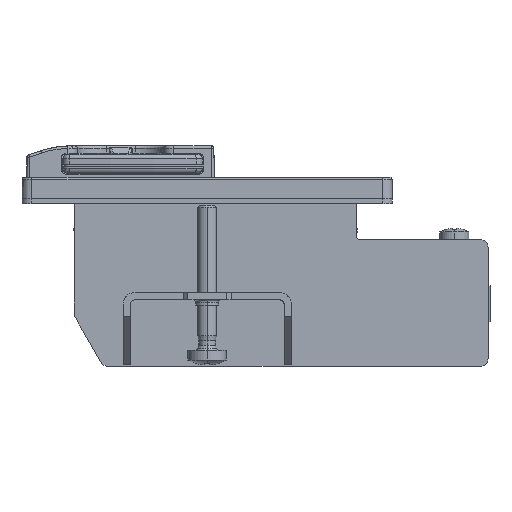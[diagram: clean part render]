
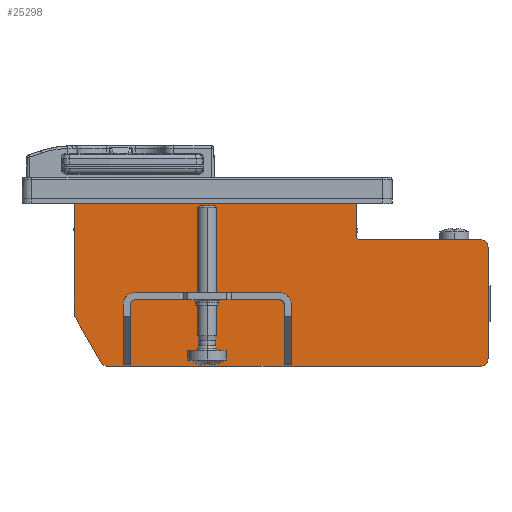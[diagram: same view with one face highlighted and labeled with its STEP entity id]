
A CAD part, left-side view. The second image highlights one B-rep face of the part: STEP entity #25298.
In plain terms, the highlighted planar face has unit normal (-1, 0, 0).
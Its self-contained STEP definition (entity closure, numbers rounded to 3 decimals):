
#6168=DIRECTION('',(0.,0.,1.));
#6169=VECTOR('',#6168,6.7);
#6170=CARTESIAN_POINT('',(-42.8,-16.,-14.2));
#6171=LINE('',#6170,#6169);
#6210=DIRECTION('',(0.,-1.,0.));
#6211=VECTOR('',#6210,0.024);
#6212=CARTESIAN_POINT('',(-42.8,41.8,-7.5));
#6213=LINE('',#6212,#6211);
#6217=DIRECTION('',(0.,0.,-1.));
#6218=VECTOR('',#6217,0.3);
#6219=CARTESIAN_POINT('',(-42.8,41.776,-7.2));
#6220=LINE('',#6219,#6218);
#6224=DIRECTION('',(0.,-1.,0.));
#6225=VECTOR('',#6224,56.876);
#6226=CARTESIAN_POINT('',(-42.8,41.776,-7.2));
#6227=LINE('',#6226,#6225);
#6231=DIRECTION('',(0.,0.707,0.707));
#6232=VECTOR('',#6231,0.424);
#6233=CARTESIAN_POINT('',(-42.8,-15.4,-7.5));
#6234=LINE('',#6233,#6232);
#6238=DIRECTION('',(0.,-1.,0.));
#6239=VECTOR('',#6238,0.6);
#6240=CARTESIAN_POINT('',(-42.8,-15.4,-7.5));
#6241=LINE('',#6240,#6239);
#6245=CARTESIAN_POINT('',(-42.8,-41.8,-16.6));
#6246=DIRECTION('',(1.,0.,0.));
#6247=DIRECTION('',(0.,0.,1.));
#6248=AXIS2_PLACEMENT_3D('',#6245,#6246,#6247);
#6253=CARTESIAN_POINT('',(-42.8,-41.8,-39.7));
#6254=DIRECTION('',(1.,0.,0.));
#6255=DIRECTION('',(0.,-1.,0.));
#6256=AXIS2_PLACEMENT_3D('',#6253,#6254,#6255);
#6261=DIRECTION('',(0.,1.,0.));
#6262=VECTOR('',#6261,77.476);
#6263=CARTESIAN_POINT('',(-42.8,-41.8,-41.3));
#6264=LINE('',#6263,#6262);
#6268=CARTESIAN_POINT('',(-42.8,35.676,-39.7));
#6269=DIRECTION('',(1.,0.,0.));
#6270=DIRECTION('',(0.,0.,-1.));
#6271=AXIS2_PLACEMENT_3D('',#6268,#6269,#6270);
#6276=DIRECTION('',(0.,-1.,0.));
#6277=VECTOR('',#6276,30.);
#6278=CARTESIAN_POINT('',(-42.8,30.,-27.5));
#6279=LINE('',#6278,#6277);
#6283=CARTESIAN_POINT('',(-42.8,0.,-28.5));
#6284=DIRECTION('',(1.,0.,0.));
#6285=DIRECTION('',(0.,0.,1.));
#6286=AXIS2_PLACEMENT_3D('',#6283,#6284,#6285);
#6291=DIRECTION('',(0.,0.,-1.));
#6292=VECTOR('',#6291,12.5);
#6293=CARTESIAN_POINT('',(-42.8,-1.,-28.5));
#6294=LINE('',#6293,#6292);
#6298=DIRECTION('',(0.,0.,1.));
#6299=VECTOR('',#6298,12.5);
#6300=CARTESIAN_POINT('',(-42.8,-2.5,-41.));
#6301=LINE('',#6300,#6299);
#6305=CARTESIAN_POINT('',(-42.8,0.,-28.5));
#6306=DIRECTION('',(-1.,0.,0.));
#6307=DIRECTION('',(0.,-1.,0.));
#6308=AXIS2_PLACEMENT_3D('',#6305,#6306,#6307);
#6313=DIRECTION('',(0.,1.,0.));
#6314=VECTOR('',#6313,30.);
#6315=CARTESIAN_POINT('',(-42.8,0.,-26.));
#6316=LINE('',#6315,#6314);
#6320=DIRECTION('',(0.,0.,-1.));
#6321=VECTOR('',#6320,12.5);
#6322=CARTESIAN_POINT('',(-42.8,32.5,-28.5));
#6323=LINE('',#6322,#6321);
#6327=DIRECTION('',(0.,0.,1.));
#6328=VECTOR('',#6327,12.5);
#6329=CARTESIAN_POINT('',(-42.8,31.,-41.));
#6330=LINE('',#6329,#6328);
#6334=DIRECTION('',(0.,-0.5,-0.866));
#6335=VECTOR('',#6334,10.648);
#6336=CARTESIAN_POINT('',(-42.8,42.386,-31.279));
#6337=LINE('',#6336,#6335);
#6404=DIRECTION('',(0.,0.,1.));
#6405=VECTOR('',#6404,23.1);
#6406=CARTESIAN_POINT('',(-42.8,-43.4,-39.7));
#6407=LINE('',#6406,#6405);
#6467=DIRECTION('',(0.,1.,0.));
#6468=VECTOR('',#6467,25.);
#6469=CARTESIAN_POINT('',(-42.8,-41.8,-15.));
#6470=LINE('',#6469,#6468);
#6520=CARTESIAN_POINT('',(-42.8,-16.8,-14.2));
#6521=DIRECTION('',(-1.,0.,0.));
#6522=DIRECTION('',(0.,1.,0.));
#6523=AXIS2_PLACEMENT_3D('',#6520,#6521,#6522);
#6688=DIRECTION('',(0.,0.,-1.));
#6689=VECTOR('',#6688,23.071);
#6690=CARTESIAN_POINT('',(-42.8,42.6,-7.408));
#6691=LINE('',#6690,#6689);
#6709=CARTESIAN_POINT('',(-42.8,41.,-30.479));
#6710=DIRECTION('',(-1.,0.,0.));
#6711=DIRECTION('',(0.,1.,0.));
#6712=AXIS2_PLACEMENT_3D('',#6709,#6710,#6711);
#6784=DIRECTION('',(0.,1.,0.));
#6785=VECTOR('',#6784,0.8);
#6786=CARTESIAN_POINT('',(-42.8,41.8,-7.408));
#6787=LINE('',#6786,#6785);
#8610=DIRECTION('',(0.,0.,1.));
#8611=VECTOR('',#8610,0.092);
#8612=CARTESIAN_POINT('',(-42.8,41.8,-7.5));
#8613=LINE('',#8612,#8611);
#10755=CARTESIAN_POINT('',(-42.8,30.,-28.5));
#10756=DIRECTION('',(-1.,0.,0.));
#10757=DIRECTION('',(0.,0.,1.));
#10758=AXIS2_PLACEMENT_3D('',#10755,#10756,#10757);
#10798=DIRECTION('',(0.,-1.,0.));
#10799=VECTOR('',#10798,1.5);
#10800=CARTESIAN_POINT('',(-42.8,32.5,-41.));
#10801=LINE('',#10800,#10799);
#10819=CARTESIAN_POINT('',(-42.8,30.,-28.5));
#10820=DIRECTION('',(1.,0.,0.));
#10821=DIRECTION('',(0.,1.,0.));
#10822=AXIS2_PLACEMENT_3D('',#10819,#10820,#10821);
#10920=DIRECTION('',(0.,-1.,0.));
#10921=VECTOR('',#10920,1.5);
#10922=CARTESIAN_POINT('',(-42.8,-1.,-41.));
#10923=LINE('',#10922,#10921);
#19327=CARTESIAN_POINT('',(-42.8,42.6,-30.479));
#19329=VERTEX_POINT('',#19327);
#19331=CARTESIAN_POINT('',(-42.8,42.386,-31.279));
#19332=VERTEX_POINT('',#19331);
#19343=CARTESIAN_POINT('',(-42.8,41.8,-7.408));
#19344=CARTESIAN_POINT('',(-42.8,42.6,-7.408));
#19345=VERTEX_POINT('',#19343);
#19346=VERTEX_POINT('',#19344);
#19365=CARTESIAN_POINT('',(-42.8,-16.,-14.2));
#19366=CARTESIAN_POINT('',(-42.8,-16.8,-15.));
#19367=VERTEX_POINT('',#19365);
#19368=VERTEX_POINT('',#19366);
#19611=CARTESIAN_POINT('',(-42.8,-2.5,-28.5));
#19612=CARTESIAN_POINT('',(-42.8,0.,-26.));
#19613=VERTEX_POINT('',#19611);
#19614=VERTEX_POINT('',#19612);
#19615=CARTESIAN_POINT('',(-42.8,0.,-27.5));
#19616=CARTESIAN_POINT('',(-42.8,-1.,-28.5));
#19617=VERTEX_POINT('',#19615);
#19618=VERTEX_POINT('',#19616);
#19709=CARTESIAN_POINT('',(-42.8,-41.8,-41.3));
#19710=CARTESIAN_POINT('',(-42.8,35.676,-41.3));
#19711=VERTEX_POINT('',#19709);
#19712=VERTEX_POINT('',#19710);
#19713=CARTESIAN_POINT('',(-42.8,37.062,-40.5));
#19714=VERTEX_POINT('',#19713);
#20277=CARTESIAN_POINT('',(-42.8,41.8,-7.5));
#20279=VERTEX_POINT('',#20277);
#20297=CARTESIAN_POINT('',(-42.8,41.776,-7.2));
#20298=CARTESIAN_POINT('',(-42.8,-15.1,-7.2));
#20299=VERTEX_POINT('',#20297);
#20300=VERTEX_POINT('',#20298);
#20327=CARTESIAN_POINT('',(-42.8,41.776,-7.5));
#20328=VERTEX_POINT('',#20327);
#20331=CARTESIAN_POINT('',(-42.8,-15.4,-7.5));
#20332=VERTEX_POINT('',#20331);
#20333=CARTESIAN_POINT('',(-42.8,-41.8,-15.));
#20335=VERTEX_POINT('',#20333);
#20357=CARTESIAN_POINT('',(-42.8,30.,-27.5));
#20358=CARTESIAN_POINT('',(-42.8,31.,-28.5));
#20359=VERTEX_POINT('',#20357);
#20360=VERTEX_POINT('',#20358);
#20361=CARTESIAN_POINT('',(-42.8,32.5,-28.5));
#20362=CARTESIAN_POINT('',(-42.8,30.,-26.));
#20363=VERTEX_POINT('',#20361);
#20364=VERTEX_POINT('',#20362);
#20365=CARTESIAN_POINT('',(-42.8,32.5,-41.));
#20366=CARTESIAN_POINT('',(-42.8,31.,-41.));
#20367=VERTEX_POINT('',#20365);
#20368=VERTEX_POINT('',#20366);
#20369=CARTESIAN_POINT('',(-42.8,-1.,-41.));
#20370=CARTESIAN_POINT('',(-42.8,-2.5,-41.));
#20371=VERTEX_POINT('',#20369);
#20372=VERTEX_POINT('',#20370);
#20405=CARTESIAN_POINT('',(-42.8,-43.4,-39.7));
#20406=VERTEX_POINT('',#20405);
#20407=CARTESIAN_POINT('',(-42.8,-16.,-7.5));
#20408=VERTEX_POINT('',#20407);
#20409=CARTESIAN_POINT('',(-42.8,-43.4,-16.6));
#20410=VERTEX_POINT('',#20409);
#25233=CARTESIAN_POINT('',(-42.8,42.2,-18.143));
#25234=DIRECTION('',(1.,0.,0.));
#25235=DIRECTION('',(0.,0.,-1.));
#25236=AXIS2_PLACEMENT_3D('',#25233,#25234,#25235);
#25237=PLANE('',#25236);
#25239=ORIENTED_EDGE('',*,*,#25238,.F.);
#25241=ORIENTED_EDGE('',*,*,#25240,.F.);
#25243=ORIENTED_EDGE('',*,*,#25242,.F.);
#25245=ORIENTED_EDGE('',*,*,#25244,.F.);
#25247=ORIENTED_EDGE('',*,*,#25246,.F.);
#25248=ORIENTED_EDGE('',*,*,#24891,.T.);
#25250=ORIENTED_EDGE('',*,*,#25249,.F.);
#25251=ORIENTED_EDGE('',*,*,#24832,.T.);
#25253=ORIENTED_EDGE('',*,*,#25252,.F.);
#25254=ORIENTED_EDGE('',*,*,#24883,.T.);
#25255=ORIENTED_EDGE('',*,*,#25197,.F.);
#25257=ORIENTED_EDGE('',*,*,#25256,.T.);
#25259=ORIENTED_EDGE('',*,*,#25258,.F.);
#25261=ORIENTED_EDGE('',*,*,#25260,.T.);
#25263=ORIENTED_EDGE('',*,*,#25262,.F.);
#25265=ORIENTED_EDGE('',*,*,#25264,.T.);
#25267=ORIENTED_EDGE('',*,*,#25266,.T.);
#25269=ORIENTED_EDGE('',*,*,#25268,.T.);
#25270=EDGE_LOOP('',(#25239,#25241,#25243,#25245,#25247,#25248,#25250,#25251,
#25253,#25254,#25255,#25257,#25259,#25261,#25263,#25265,#25267,#25269));
#25271=FACE_OUTER_BOUND('',#25270,.F.);
#25273=ORIENTED_EDGE('',*,*,#25272,.T.);
#25275=ORIENTED_EDGE('',*,*,#25274,.T.);
#25277=ORIENTED_EDGE('',*,*,#25276,.T.);
#25279=ORIENTED_EDGE('',*,*,#25278,.T.);
#25281=ORIENTED_EDGE('',*,*,#25280,.T.);
#25283=ORIENTED_EDGE('',*,*,#25282,.T.);
#25285=ORIENTED_EDGE('',*,*,#25284,.T.);
#25287=ORIENTED_EDGE('',*,*,#25286,.F.);
#25289=ORIENTED_EDGE('',*,*,#25288,.T.);
#25291=ORIENTED_EDGE('',*,*,#25290,.T.);
#25293=ORIENTED_EDGE('',*,*,#25292,.T.);
#25295=ORIENTED_EDGE('',*,*,#25294,.F.);
#25296=EDGE_LOOP('',(#25273,#25275,#25277,#25279,#25281,#25283,#25285,#25287,
#25289,#25291,#25293,#25295));
#25297=FACE_BOUND('',#25296,.F.);
#25298=ADVANCED_FACE('',(#25271,#25297),#25237,.F.);
#6249=CIRCLE('',#6248,1.6);
#6257=CIRCLE('',#6256,1.6);
#6272=CIRCLE('',#6271,1.6);
#6287=CIRCLE('',#6286,1.);
#6309=CIRCLE('',#6308,2.5);
#6524=CIRCLE('',#6523,0.8);
#6713=CIRCLE('',#6712,1.6);
#10759=CIRCLE('',#10758,1.);
#10823=CIRCLE('',#10822,2.5);
#24832=EDGE_CURVE('',#20299,#20300,#6227,.T.);
#24883=EDGE_CURVE('',#20332,#20408,#6241,.T.);
#24891=EDGE_CURVE('',#20279,#20328,#6213,.T.);
#25197=EDGE_CURVE('',#19367,#20408,#6171,.T.);
#25238=EDGE_CURVE('',#19332,#19714,#6337,.T.);
#25240=EDGE_CURVE('',#19329,#19332,#6713,.T.);
#25242=EDGE_CURVE('',#19346,#19329,#6691,.T.);
#25244=EDGE_CURVE('',#19345,#19346,#6787,.T.);
#25246=EDGE_CURVE('',#20279,#19345,#8613,.T.);
#25249=EDGE_CURVE('',#20299,#20328,#6220,.T.);
#25252=EDGE_CURVE('',#20332,#20300,#6234,.T.);
#25256=EDGE_CURVE('',#19367,#19368,#6524,.T.);
#25258=EDGE_CURVE('',#20335,#19368,#6470,.T.);
#25260=EDGE_CURVE('',#20335,#20410,#6249,.T.);
#25262=EDGE_CURVE('',#20406,#20410,#6407,.T.);
#25264=EDGE_CURVE('',#20406,#19711,#6257,.T.);
#25266=EDGE_CURVE('',#19711,#19712,#6264,.T.);
#25268=EDGE_CURVE('',#19712,#19714,#6272,.T.);
#25272=EDGE_CURVE('',#20359,#19617,#6279,.T.);
#25274=EDGE_CURVE('',#19617,#19618,#6287,.T.);
#25276=EDGE_CURVE('',#19618,#20371,#6294,.T.);
#25278=EDGE_CURVE('',#20371,#20372,#10923,.T.);
#25280=EDGE_CURVE('',#20372,#19613,#6301,.T.);
#25282=EDGE_CURVE('',#19613,#19614,#6309,.T.);
#25284=EDGE_CURVE('',#19614,#20364,#6316,.T.);
#25286=EDGE_CURVE('',#20363,#20364,#10823,.T.);
#25288=EDGE_CURVE('',#20363,#20367,#6323,.T.);
#25290=EDGE_CURVE('',#20367,#20368,#10801,.T.);
#25292=EDGE_CURVE('',#20368,#20360,#6330,.T.);
#25294=EDGE_CURVE('',#20359,#20360,#10759,.T.);
